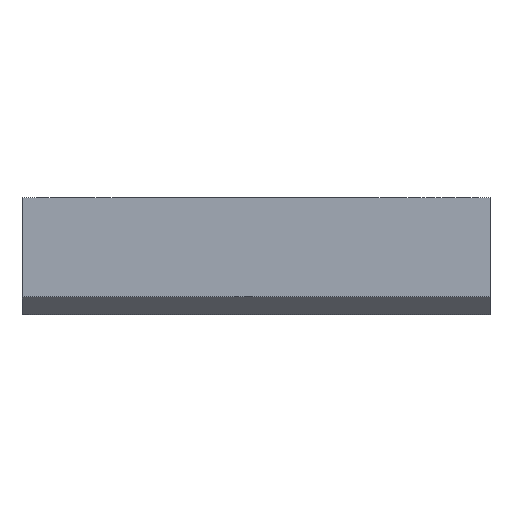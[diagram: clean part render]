
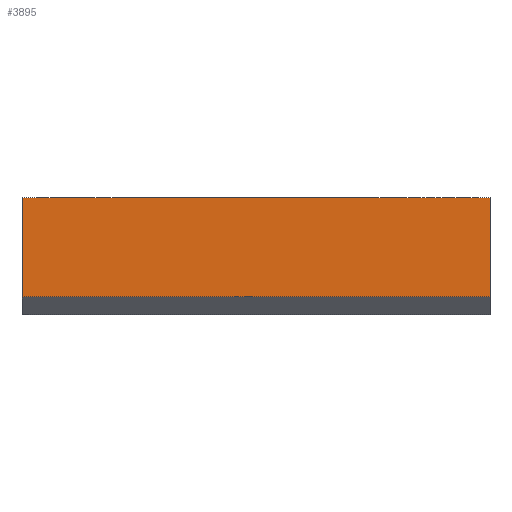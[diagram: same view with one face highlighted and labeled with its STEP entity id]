
A CAD part, front view. The second image highlights one B-rep face of the part: STEP entity #3895.
In plain terms, the highlighted planar face has unit normal (0, -1, 0).
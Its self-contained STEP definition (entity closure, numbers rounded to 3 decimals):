
#167 = ORIENTED_EDGE ( 'NONE', *, *, #790, .F. ) ;
#222 = CARTESIAN_POINT ( 'NONE',  ( 40., 0., 3. ) ) ;
#239 = VECTOR ( 'NONE', #3012, 1000. ) ;
#243 = LINE ( 'NONE', #222, #3335 ) ;
#525 = CARTESIAN_POINT ( 'NONE',  ( 80., 0., 11.5 ) ) ;
#629 = VERTEX_POINT ( 'NONE', #2862 ) ;
#790 = EDGE_CURVE ( 'NONE', #2796, #1438, #2082, .T. ) ;
#825 = AXIS2_PLACEMENT_3D ( 'NONE', #3329, #1508, #3656 ) ;
#989 = VERTEX_POINT ( 'NONE', #2165 ) ;
#1092 = LINE ( 'NONE', #525, #239 ) ;
#1180 = DIRECTION ( 'NONE',  ( 0., 0., 1. ) ) ;
#1438 = VERTEX_POINT ( 'NONE', #1651 ) ;
#1464 = CARTESIAN_POINT ( 'NONE',  ( 0., 0., 20. ) ) ;
#1508 = DIRECTION ( 'NONE',  ( 0., -1., 0. ) ) ;
#1627 = VECTOR ( 'NONE', #1180, 1000. ) ;
#1651 = CARTESIAN_POINT ( 'NONE',  ( 80., 0., 20. ) ) ;
#1690 = ORIENTED_EDGE ( 'NONE', *, *, #2841, .T. ) ;
#1991 = ORIENTED_EDGE ( 'NONE', *, *, #2864, .F. ) ;
#2006 = FACE_OUTER_BOUND ( 'NONE', #2076, .T. ) ;
#2076 = EDGE_LOOP ( 'NONE', ( #3875, #167, #1991, #1690 ) ) ;
#2082 = LINE ( 'NONE', #3000, #2181 ) ;
#2165 = CARTESIAN_POINT ( 'NONE',  ( 80., 0., 3. ) ) ;
#2181 = VECTOR ( 'NONE', #3867, 1000. ) ;
#2525 = LINE ( 'NONE', #3952, #1627 ) ;
#2710 = DIRECTION ( 'NONE',  ( 1., 0., 0. ) ) ;
#2796 = VERTEX_POINT ( 'NONE', #1464 ) ;
#2841 = EDGE_CURVE ( 'NONE', #629, #989, #243, .T. ) ;
#2862 = CARTESIAN_POINT ( 'NONE',  ( 0., 0., 3. ) ) ;
#2864 = EDGE_CURVE ( 'NONE', #629, #2796, #2525, .T. ) ;
#3000 = CARTESIAN_POINT ( 'NONE',  ( 40., 0., 20. ) ) ;
#3012 = DIRECTION ( 'NONE',  ( 0., 0., 1. ) ) ;
#3318 = PLANE ( 'NONE',  #825 ) ;
#3329 = CARTESIAN_POINT ( 'NONE',  ( 0., 0., 0. ) ) ;
#3335 = VECTOR ( 'NONE', #2710, 1000. ) ;
#3656 = DIRECTION ( 'NONE',  ( 0., 0., -1. ) ) ;
#3855 = EDGE_CURVE ( 'NONE', #989, #1438, #1092, .T. ) ;
#3867 = DIRECTION ( 'NONE',  ( 1., 0., 0. ) ) ;
#3875 = ORIENTED_EDGE ( 'NONE', *, *, #3855, .T. ) ;
#3895 = ADVANCED_FACE ( 'NONE', ( #2006 ), #3318, .T. ) ;
#3952 = CARTESIAN_POINT ( 'NONE',  ( 0., 0., 11.5 ) ) ;
